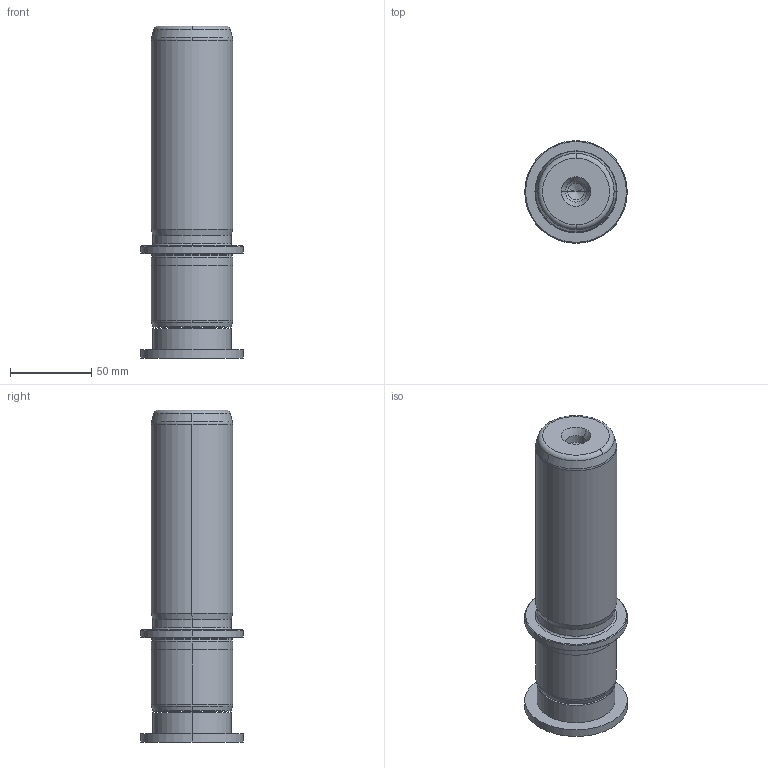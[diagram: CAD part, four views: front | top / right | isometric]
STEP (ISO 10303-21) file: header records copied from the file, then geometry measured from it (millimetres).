
FILE_DESCRIPTION((''),'2;1');
FILE_NAME('P22_050_140.stp','2009-11-02T10:46:44',(''),(''),'Mechanical Desktop 2009','Mechanical Desktop 2009',', , ');
FILE_SCHEMA(('CONFIG_CONTROL_DESIGN'));
Length unit declared in the file: millimetre
Products named in the file (2): Product; blmdl1
Assembly tree (1 placements, depth 2):
  Product
    blmdl1
Bounding box: 63 x 63 x 204 mm (x, y, z)
Volume: 398652.9 mm3; surface area: 49707.7 mm2
Topology: 3 solids, 3 shells, 99 faces, 237 edges, 149 vertices
Faces by surface type: cylinder 32, cone 28, plane 19, torus 10, bspline 10
Entity records: 3419 total; most frequent: CARTESIAN_POINT 923, DIRECTION 570, ORIENTED_EDGE 466, AXIS2_PLACEMENT_3D 246, EDGE_CURVE 233, CIRCLE 155, VERTEX_POINT 149, EDGE_LOOP 110
